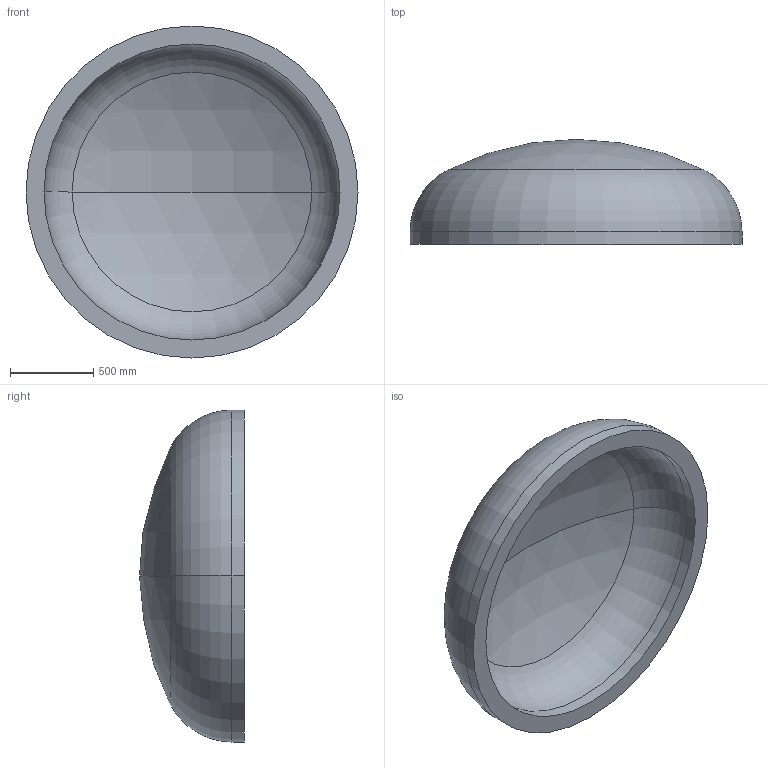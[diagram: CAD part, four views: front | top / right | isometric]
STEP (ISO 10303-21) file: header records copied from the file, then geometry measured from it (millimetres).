
FILE_DESCRIPTION (( 'STEP AP203' ), '1' );
FILE_NAME ('DIN 28013 Korbbogenform_-_Boden DIN 28013 - 2000 x 75 - I - s=108.step', '2016-07-01T14:11:27', ( '' ), ( '' ), 'SwSTEP 2.0', 'SolidWorks 2013', '' );
FILE_SCHEMA (( 'CONFIG_CONTROL_DESIGN' ));
Length unit declared in the file: millimetre
Products named in the file (1): DIN 28013 Korbbogenform_-_Boden DIN 28013 - 2000 x 75 - I - s=108
Bounding box: 2000 x 631.75 x 2000 mm (x, y, z)
Volume: 487241367.3 mm3; surface area: 9689355.3 mm2
Topology: 1 solids, 1 shells, 13 faces, 24 edges, 14 vertices
Faces by surface type: torus 4, cylinder 4, sphere 4, plane 1
Entity records: 407 total; most frequent: DIRECTION 72, CARTESIAN_POINT 52, ORIENTED_EDGE 48, AXIS2_PLACEMENT_3D 34, EDGE_CURVE 24, CIRCLE 20, EDGE_LOOP 14, VERTEX_POINT 14
